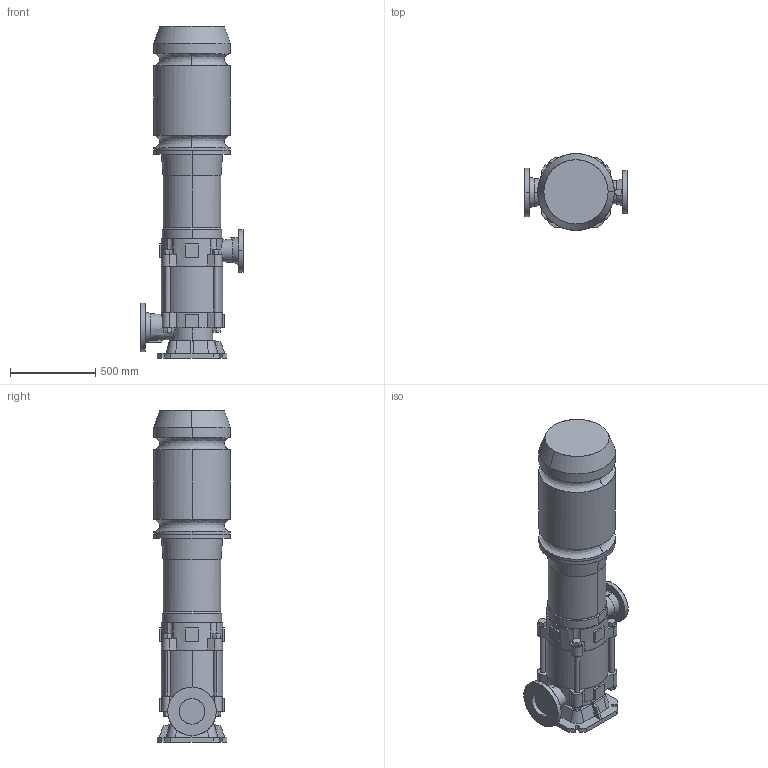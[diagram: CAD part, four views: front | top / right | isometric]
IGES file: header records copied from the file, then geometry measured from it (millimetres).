
Global section: file name: C:\Dokumente und Einstellungen\Administrator\Desktop\Zeichnung1.igs; native system: AutoCAD-18.0s (LMS Tech) (Microsoft Windows NT Version 5.1 (x86)); preprocessor: Autodesk IGES Translator Mechanical Desktop 2010 (Apr 22 2010) from Autodesk, Inc.; date: 20120402.092910; units: millimetre
Bounding box: 600 x 450 x 1951 mm (x, y, z)
Surface area: 4581671.3 mm2 (no closed solid volume)
Topology: 0 solids, 0 shells, 270 faces, 1660 edges, 1659 vertices
Faces by surface type: bspline 270
